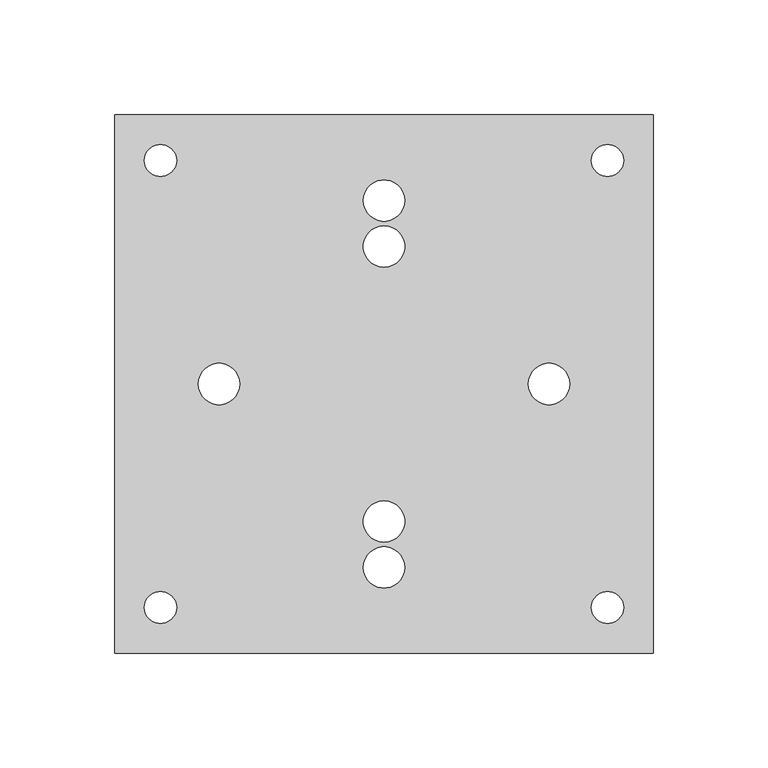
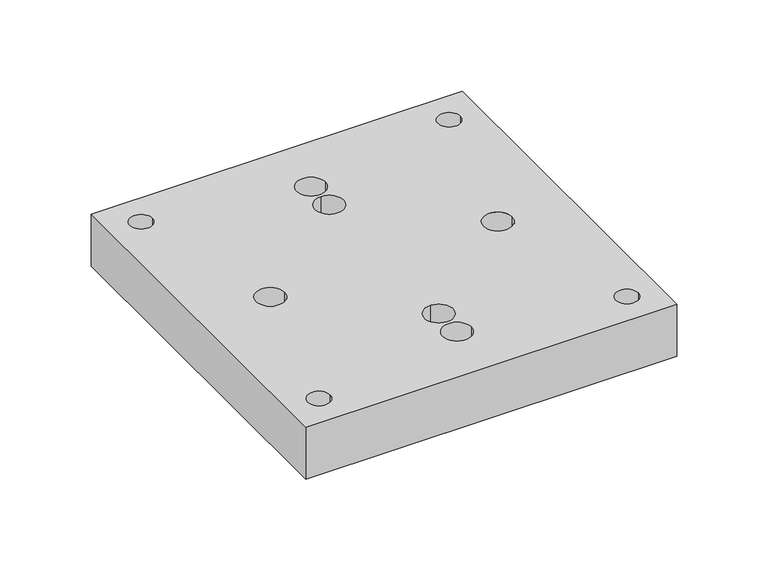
"""IFC4 building model written with IfcOpenShell, lengths in millimetres: proxy geometry, Wellmix_Присоединительная база : База А."""

import ifcopenshell
import ifcopenshell.guid

model = None  # the IFC model being written
_history = None  # IfcOwnerHistory: only IFC2X3 demands one
_inside = {}  # id of a spatial element -> (the spatial element, [elements in it])
_under = {}  # id of a project, library or spatial element -> (it, [spatial elements below it])
_declared = {}  # id of a project -> (the project, [libraries it declares])
_typed = {}  # id of a type object -> (the type object, [elements of that type])
_made_of = {}  # id of a material, layer set ... -> (it, [elements and type objects made of it])


def new_model(schema):
    """Start an empty IFC model of exactly this schema.

    Asked for "IFC4X3", IfcOpenShell would pick the latest addendum, in which some entities
    have other attributes; the version numbers below select the first issue.
    IFC2X3 requires an IfcOwnerHistory on every rooted entity: one is made here for all.
    """
    global model, _history
    if schema == "IFC4X3":
        model = ifcopenshell.file(schema_version=(4, 3, 0, 0))
    else:
        model = ifcopenshell.file(schema=schema)
    _inside.clear()
    _under.clear()
    _declared.clear()
    _typed.clear()
    _made_of.clear()
    _history = None
    if model.schema == "IFC2X3":
        org = make("IfcOrganization", Name="unknown")
        user = make(
            "IfcPersonAndOrganization",
            ThePerson=make("IfcPerson", FamilyName="unknown"),
            TheOrganization=org,
        )
        app = make(
            "IfcApplication",
            ApplicationDeveloper=org,
            Version="unknown",
            ApplicationFullName="unknown",
            ApplicationIdentifier="unknown",
        )
        _history = make(
            "IfcOwnerHistory",
            OwningUser=user,
            OwningApplication=app,
            ChangeAction="ADDED",
            CreationDate=0,
        )
    return model


def make(cls, **values):
    """One entity of the class cls with the attributes given. An attribute that is None is left unset."""
    return model.create_entity(
        cls, **{name: value for name, value in values.items() if value is not None}
    )


def rooted(cls, **values):
    """An entity with a GlobalId (a new one), such as an element, a storey or a relation."""
    return make(cls, GlobalId=ifcopenshell.guid.new(), OwnerHistory=_history, **values)


def si_unit(unit_type, name, prefix=None):
    """IfcSIUnit, for example si_unit("LENGTHUNIT", "METRE", prefix="MILLI")."""
    return make("IfcSIUnit", UnitType=unit_type, Prefix=prefix, Name=name)


def assignment(units):
    """IfcUnitAssignment: the units of a project."""
    return None if units is None else make("IfcUnitAssignment", Units=units)


def point(xyz):
    """IfcCartesianPoint."""
    return None if xyz is None else make("IfcCartesianPoint", Coordinates=xyz)


def direction(xyz):
    """IfcDirection."""
    return None if xyz is None else make("IfcDirection", DirectionRatios=xyz)


def frame(location, z_axis=None, x_axis=None):
    """IfcAxis2Placement3D, a coordinate frame: its origin and axes. An axis left out is left unset."""
    return make(
        "IfcAxis2Placement3D",
        Location=point(location),
        Axis=direction(z_axis),
        RefDirection=direction(x_axis),
    )


def frame_2d(location, x_axis=None):
    """IfcAxis2Placement2D, a coordinate frame in the plane: its origin and x axis."""
    return make(
        "IfcAxis2Placement2D", Location=point(location), RefDirection=direction(x_axis)
    )


def origin():
    """The frame at (0, 0, 0) with its axes left unset."""
    return frame((0.0, 0.0, 0.0))


def place(relative_to, where):
    """IfcLocalPlacement: puts the frame where relative to a parent placement (None: the world)."""
    return make(
        "IfcLocalPlacement", PlacementRelTo=relative_to, RelativePlacement=where
    )


def context(
    kind, dimensions, precision=None, world=None, true_north=None, identifier=None
):
    """IfcGeometricRepresentationContext, for example the 3D "Model" context."""
    return make(
        "IfcGeometricRepresentationContext",
        ContextIdentifier=identifier,
        ContextType=kind,
        CoordinateSpaceDimension=dimensions,
        Precision=precision,
        WorldCoordinateSystem=world,
        TrueNorth=true_north,
    )


def project(units=None, contexts=None):
    """IfcProject with its units and contexts."""
    return rooted(
        "IfcProject",
        Name="project",
        RepresentationContexts=contexts,
        UnitsInContext=assignment(units),
    )


def spatial(cls, under=None, at=None, **own):
    """A site, building, storey or space (cls), placed at a placement, below another one or the project."""
    s = rooted(cls, ObjectPlacement=at, **own)
    if under is not None:
        _under.setdefault(under.id(), (under, []))[1].append(s)
    return s


def polyline(points):
    """IfcPolyline through the points."""
    return make("IfcPolyline", Points=[point(p) for p in points])


def circle_curve(where, radius):
    """IfcCircle in the frame where."""
    return make("IfcCircle", Position=where, Radius=radius)


def trimmed(basis, trim1, trim2, sense, master):
    """IfcTrimmedCurve: the piece of a basis curve between two trims."""
    return make(
        "IfcTrimmedCurve",
        BasisCurve=basis,
        Trim1=trim1,
        Trim2=trim2,
        SenseAgreement=sense,
        MasterRepresentation=master,
    )


def segment(curve, same_sense, transition):
    """IfcCompositeCurveSegment."""
    return make(
        "IfcCompositeCurveSegment",
        Transition=transition,
        SameSense=same_sense,
        ParentCurve=curve,
    )


def composite_curve(segments, self_intersect=None):
    """IfcCompositeCurve: segments joined end to end."""
    return make("IfcCompositeCurve", Segments=segments, SelfIntersect=self_intersect)


def outline(outer, holes=None, kind="AREA"):
    """IfcArbitraryClosedProfileDef: a profile drawn as a closed curve; with holes, ...WithVoids."""
    if holes is None:
        return make("IfcArbitraryClosedProfileDef", ProfileType=kind, OuterCurve=outer)
    return make(
        "IfcArbitraryProfileDefWithVoids",
        ProfileType=kind,
        OuterCurve=outer,
        InnerCurves=holes,
    )


def extrude(swept, where, along, depth):
    """IfcExtrudedAreaSolid: the profile swept, set in the frame where, extruded along a direction by depth."""
    return make(
        "IfcExtrudedAreaSolid",
        SweptArea=swept,
        Position=where,
        ExtrudedDirection=direction(along),
        Depth=depth,
    )


def shape(context_of_items, identifier, shape_type, items):
    """IfcShapeRepresentation: the items that make up one representation, for example the "Body"."""
    return make(
        "IfcShapeRepresentation",
        ContextOfItems=context_of_items,
        RepresentationIdentifier=identifier,
        RepresentationType=shape_type,
        Items=items,
    )


def source(mapping_origin, context_of_items, identifier, shape_type, items):
    """IfcRepresentationMap: a shape defined once, which mapped items show again and again."""
    return make(
        "IfcRepresentationMap",
        MappingOrigin=mapping_origin,
        MappedRepresentation=shape(context_of_items, identifier, shape_type, items),
    )


def transform(
    local_origin,
    x_axis=None,
    y_axis=None,
    z_axis=None,
    scale=None,
    scale2=None,
    scale3=None,
    uniform=True,
):
    """IfcCartesianTransformationOperator3D, or its non-uniform kind. x_axis, y_axis, z_axis: its Axis1, 2, 3."""
    if uniform:
        return make(
            "IfcCartesianTransformationOperator3D",
            Axis1=direction(x_axis),
            Axis2=direction(y_axis),
            LocalOrigin=point(local_origin),
            Scale=scale,
            Axis3=direction(z_axis),
        )
    return make(
        "IfcCartesianTransformationOperator3DnonUniform",
        Axis1=direction(x_axis),
        Axis2=direction(y_axis),
        LocalOrigin=point(local_origin),
        Scale=scale,
        Axis3=direction(z_axis),
        Scale2=scale2,
        Scale3=scale3,
    )


def mapped(mapping_source, mapping_target):
    """IfcMappedItem: shows the shape of a source again, moved by a transform."""
    return make(
        "IfcMappedItem", MappingSource=mapping_source, MappingTarget=mapping_target
    )


def made_of(thing, what):
    """Note that an element or type object is made of a material, layer set ...; save() writes the relation."""
    if what is not None:
        _made_of.setdefault(what.id(), (what, []))[1].append(thing)
    return thing


def element(
    cls,
    number,
    at=None,
    inside=None,
    cuts=None,
    type_object=None,
    material=None,
    context=None,
    identifier="Body",
    shape_type=None,
    held_by="IfcProductDefinitionShape",
    body=None,
    shapes=None,
    **own,
):
    """One element of the class cls, such as IfcWall. Its Tag is "e" and its number.

    at: its placement. inside: the storey or other place that contains it. cuts: it is an
    opening in that element (IfcRelVoidsElement). A single representation is given by context,
    identifier, shape_type and body (its items); several are given by shapes. held_by: the class
    of the entity that holds the representations. save() writes the other relations.
    """
    e = rooted(cls, Tag="e%d" % number, ObjectPlacement=at, **own)
    if body is not None:
        shapes = [shape(context, identifier, shape_type, body)]
    if shapes is not None:
        e.Representation = make(held_by, Representations=shapes)
    if inside is not None:
        _inside.setdefault(inside.id(), (inside, []))[1].append(e)
    if cuts is not None:
        rooted(
            "IfcRelVoidsElement", RelatingBuildingElement=cuts, RelatedOpeningElement=e
        )
    if type_object is not None:
        _typed.setdefault(type_object.id(), (type_object, []))[1].append(e)
    return made_of(e, material)


def aggregate(whole, parts):
    """IfcRelAggregates: a whole, such as a stair, and the parts it consists of."""
    return rooted("IfcRelAggregates", RelatingObject=whole, RelatedObjects=parts)


def save(model, path):
    """Write the relations noted so far, then the file.

    IfcRelAggregates (storeys below a building ...), IfcRelContainedInSpatialStructure (elements
    in a storey), IfcRelDefinesByType, IfcRelAssociatesMaterial and IfcRelDeclares: one each for
    every whole, place, type object, material and project.
    """
    for whole, parts in _under.values():
        aggregate(whole, parts)
    for where, things in _inside.values():
        rooted(
            "IfcRelContainedInSpatialStructure",
            RelatedElements=things,
            RelatingStructure=where,
        )
    for kind, things in _typed.values():
        rooted("IfcRelDefinesByType", RelatedObjects=things, RelatingType=kind)
    for what, things in _made_of.values():
        rooted("IfcRelAssociatesMaterial", RelatedObjects=things, RelatingMaterial=what)
    for by, libraries in _declared.values():
        rooted("IfcRelDeclares", RelatingContext=by, RelatedDefinitions=libraries)
    model.write(path)


def mechanical_equipment_3c7e0f70(model_context):
    return source(origin(), model_context, "Body", "SweptSolid", [
        extrude(outline(polyline([(117.5, 117.5), (117.5, -117.5), (-117.5, -117.5), (-117.5, 117.5), (117.5, 117.5)]), holes=[composite_curve([segment(trimmed(circle_curve(frame_2d((-97.5, 97.5)), 7.0), [point((-104.5, 97.5))], [point((-90.5, 97.5))], True, "CARTESIAN"), True, "CONTINUOUS"), segment(trimmed(circle_curve(frame_2d((-97.5, 97.5)), 7.0), [point((-90.5, 97.5))], [point((-104.5, 97.5))], True, "CARTESIAN"), True, "CONTINUOUS")], self_intersect=False), composite_curve([segment(trimmed(circle_curve(frame_2d((97.5, 97.5)), 7.0), [point((90.5, 97.5))], [point((104.5, 97.5))], True, "CARTESIAN"), True, "CONTINUOUS"), segment(trimmed(circle_curve(frame_2d((97.5, 97.5)), 7.0), [point((104.5, 97.5))], [point((90.5, 97.5))], True, "CARTESIAN"), True, "CONTINUOUS")], self_intersect=False), composite_curve([segment(trimmed(circle_curve(frame_2d((-97.5, -97.5)), 7.0), [point((-104.5, -97.5))], [point((-90.5, -97.5))], True, "CARTESIAN"), True, "CONTINUOUS"), segment(trimmed(circle_curve(frame_2d((-97.5, -97.5)), 7.0), [point((-90.5, -97.5))], [point((-104.5, -97.5))], True, "CARTESIAN"), True, "CONTINUOUS")], self_intersect=False), composite_curve([segment(trimmed(circle_curve(frame_2d((97.5, -97.5)), 7.0), [point((90.5, -97.5))], [point((104.5, -97.5))], True, "CARTESIAN"), True, "CONTINUOUS"), segment(trimmed(circle_curve(frame_2d((97.5, -97.5)), 7.0), [point((104.5, -97.5))], [point((90.5, -97.5))], True, "CARTESIAN"), True, "CONTINUOUS")], self_intersect=False), composite_curve([segment(trimmed(circle_curve(frame_2d((-72.0, 0.0)), 9.0), [point((-81.0, 0.0))], [point((-63.0, 0.0))], True, "CARTESIAN"), True, "CONTINUOUS"), segment(trimmed(circle_curve(frame_2d((-72.0, 0.0)), 9.0), [point((-63.0, 0.0))], [point((-81.0, 0.0))], True, "CARTESIAN"), True, "CONTINUOUS")], self_intersect=False), composite_curve([segment(trimmed(circle_curve(frame_2d((72.0, 0.0)), 9.0), [point((63.0, 0.0))], [point((81.0, 0.0))], True, "CARTESIAN"), True, "CONTINUOUS"), segment(trimmed(circle_curve(frame_2d((72.0, 0.0)), 9.0), [point((81.0, 0.0))], [point((63.0, 0.0))], True, "CARTESIAN"), True, "CONTINUOUS")], self_intersect=False), composite_curve([segment(trimmed(circle_curve(frame_2d((0.0, 80.0)), 9.0), [point((-9.0, 80.0))], [point((9.0, 80.0))], True, "CARTESIAN"), True, "CONTINUOUS"), segment(trimmed(circle_curve(frame_2d((0.0, 80.0)), 9.0), [point((9.0, 80.0))], [point((-9.0, 80.0))], True, "CARTESIAN"), True, "CONTINUOUS")], self_intersect=False), composite_curve([segment(trimmed(circle_curve(frame_2d((0.0, -80.0)), 9.0), [point((-9.0, -80.0))], [point((9.0, -80.0))], True, "CARTESIAN"), True, "CONTINUOUS"), segment(trimmed(circle_curve(frame_2d((0.0, -80.0)), 9.0), [point((9.0, -80.0))], [point((-9.0, -80.0))], True, "CARTESIAN"), True, "CONTINUOUS")], self_intersect=False), composite_curve([segment(trimmed(circle_curve(frame_2d((0.0, 60.0)), 9.0), [point((0.0, 51.0))], [point((0.0, 69.0))], True, "CARTESIAN"), True, "CONTINUOUS"), segment(trimmed(circle_curve(frame_2d((0.0, 60.0)), 9.0), [point((0.0, 69.0))], [point((0.0, 51.0))], True, "CARTESIAN"), True, "CONTINUOUS")], self_intersect=False), composite_curve([segment(trimmed(circle_curve(frame_2d((0.0, -60.0)), 9.0), [point((0.0, -69.0))], [point((0.0, -51.0))], True, "CARTESIAN"), True, "CONTINUOUS"), segment(trimmed(circle_curve(frame_2d((0.0, -60.0)), 9.0), [point((0.0, -51.0))], [point((0.0, -69.0))], True, "CARTESIAN"), True, "CONTINUOUS")], self_intersect=False)]), frame((0.0, 0.0, -35.0), z_axis=(0.0, 0.0, 1.0), x_axis=(1.0, 0.0, 0.0)), (0.0, 0.0, 1.0), 35.0),
    ])


if __name__ == "__main__":
    model = new_model("IFC4")
    model_context = context("Model", 3, world=origin())
    ifc_project = project(units=[si_unit("LENGTHUNIT", "METRE", prefix="MILLI")], contexts=[model_context])
    site = spatial("IfcSite", under=ifc_project)
    building = spatial("IfcBuilding", under=site)
    placement = place(None, origin())
    mechanical_equipment_shape = mechanical_equipment_3c7e0f70(model_context)
    element("IfcBuildingElementProxy", 1, Name="Wellmix_Присоединительная база : База А", ObjectType="Wellmix_Присоединительная база : База А", at=placement, inside=building, context=model_context, shape_type="MappedRepresentation", body=[
        mapped(mechanical_equipment_shape, transform((0.0, 0.0, 0.0), x_axis=(1.0, 0.0, 0.0), y_axis=(0.0, 1.0, 0.0), z_axis=(0.0, 0.0, 1.0))),
    ])
    save(model, "model.ifc")
